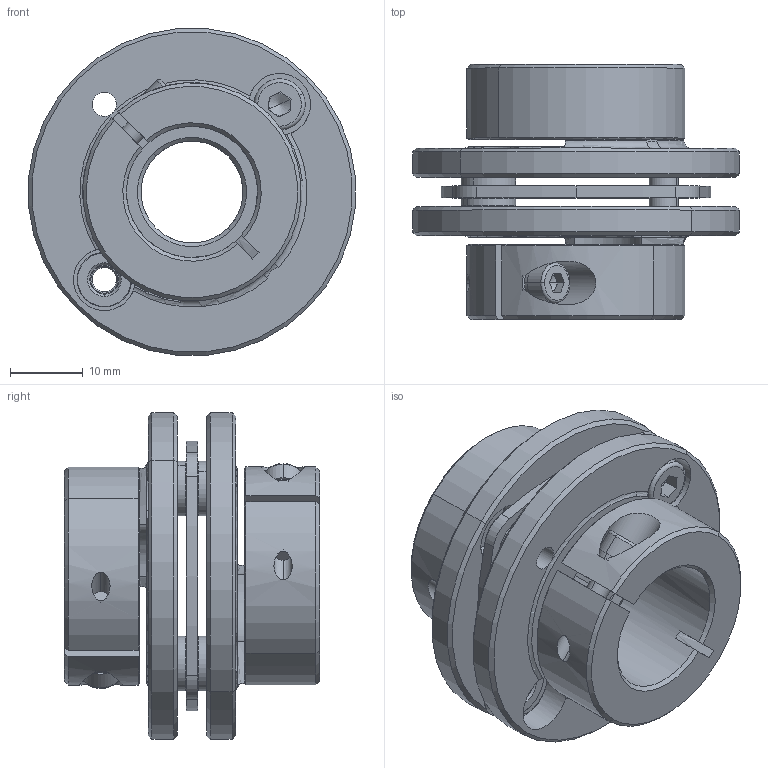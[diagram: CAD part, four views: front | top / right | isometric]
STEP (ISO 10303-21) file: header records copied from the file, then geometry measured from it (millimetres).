
FILE_DESCRIPTION (( 'STEP AP203' ), '1' );
FILE_NAME ('LE1-B-D45L35-14-18.STEP', '2021-11-01T03:20:17', ( '' ), ( '' ), 'SwSTEP 2.0', 'SolidWorks 2018', '' );
FILE_SCHEMA (( 'CONFIG_CONTROL_DESIGN' ));
Length unit declared in the file: millimetre
Products named in the file (1): LE1-B-D45L35-14-18
Bounding box: 44.83 x 35 x 44.83 mm (x, y, z)
Volume: 22166.8 mm3; surface area: 14801.8 mm2
Topology: 1 solids, 3 shells, 311 faces, 775 edges, 480 vertices
Faces by surface type: cylinder 115, plane 98, cone 82, torus 14, bspline 2
Entity records: 9750 total; most frequent: CARTESIAN_POINT 2009, DIRECTION 1741, ORIENTED_EDGE 1534, EDGE_CURVE 767, AXIS2_PLACEMENT_3D 712, VERTEX_POINT 480, CIRCLE 402, EDGE_LOOP 363
